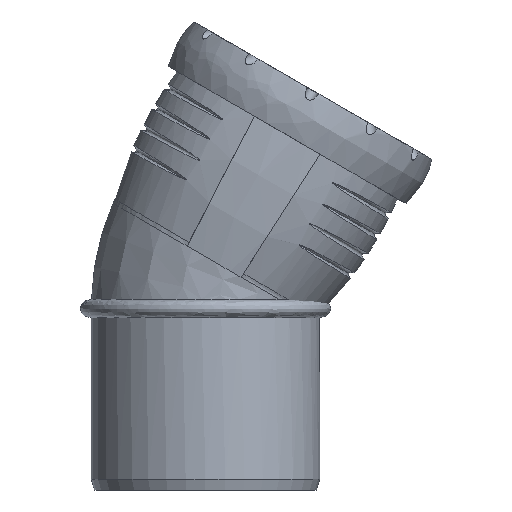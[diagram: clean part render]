
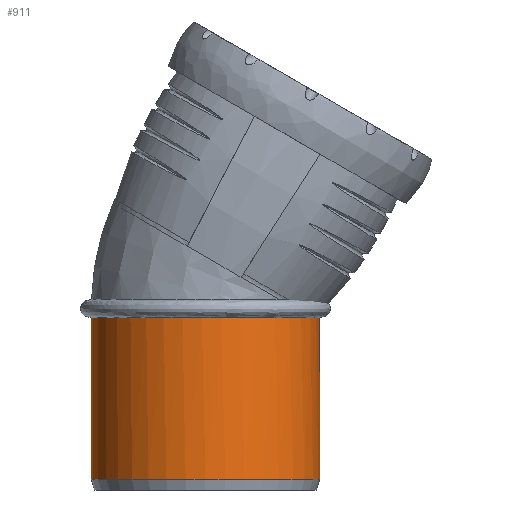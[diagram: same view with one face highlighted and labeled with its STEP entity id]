
A CAD part, front view. The second image highlights one B-rep face of the part: STEP entity #911.
In plain terms, the highlighted cylindrical face has radius 37.6 mm (diameter 75.2 mm), a full revolution.
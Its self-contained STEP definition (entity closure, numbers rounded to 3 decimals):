
#35=FACE_BOUND('',#148,.T.);
#59=CYLINDRICAL_SURFACE('',#979,37.6);
#92=FACE_OUTER_BOUND('',#147,.T.);
#147=EDGE_LOOP('',(#600,#601,#602,#603));
#148=EDGE_LOOP('',(#604));
#221=CIRCLE('',#974,37.6);
#224=CIRCLE('',#980,37.6);
#225=CIRCLE('',#981,37.6);
#226=CIRCLE('',#982,37.6);
#227=CIRCLE('',#983,37.6);
#358=VERTEX_POINT('',#1435);
#359=VERTEX_POINT('',#1466);
#361=VERTEX_POINT('',#1506);
#362=VERTEX_POINT('',#1508);
#363=VERTEX_POINT('',#1511);
#459=EDGE_CURVE('',#358,#359,#221,.T.);
#462=EDGE_CURVE('',#361,#358,#224,.T.);
#463=EDGE_CURVE('',#359,#362,#225,.T.);
#464=EDGE_CURVE('',#362,#361,#226,.T.);
#465=EDGE_CURVE('',#363,#363,#227,.T.);
#600=ORIENTED_EDGE('',*,*,#462,.T.);
#601=ORIENTED_EDGE('',*,*,#459,.T.);
#602=ORIENTED_EDGE('',*,*,#463,.T.);
#603=ORIENTED_EDGE('',*,*,#464,.T.);
#604=ORIENTED_EDGE('',*,*,#465,.F.);
#911=ADVANCED_FACE('',(#92,#35),#59,.T.);
#974=AXIS2_PLACEMENT_3D('',#1499,#1074,#1075);
#979=AXIS2_PLACEMENT_3D('',#1505,#1084,#1085);
#980=AXIS2_PLACEMENT_3D('',#1507,#1086,#1087);
#981=AXIS2_PLACEMENT_3D('',#1509,#1088,#1089);
#982=AXIS2_PLACEMENT_3D('',#1510,#1090,#1091);
#983=AXIS2_PLACEMENT_3D('',#1512,#1092,#1093);
#1074=DIRECTION('center_axis',(0.,0.,-1.));
#1075=DIRECTION('ref_axis',(1.,0.,0.));
#1084=DIRECTION('center_axis',(0.,0.,-1.));
#1085=DIRECTION('ref_axis',(0.,1.,0.));
#1086=DIRECTION('center_axis',(0.,0.,-1.));
#1087=DIRECTION('ref_axis',(1.,0.,0.));
#1088=DIRECTION('center_axis',(0.,0.,-1.));
#1089=DIRECTION('ref_axis',(1.,0.,0.));
#1090=DIRECTION('center_axis',(0.,0.,-1.));
#1091=DIRECTION('ref_axis',(1.,0.,0.));
#1092=DIRECTION('center_axis',(0.,0.,-1.));
#1093=DIRECTION('ref_axis',(1.,0.,0.));
#1435=CARTESIAN_POINT('',(34.545,14.846,56.7));
#1466=CARTESIAN_POINT('',(34.545,-14.846,56.7));
#1499=CARTESIAN_POINT('Origin',(0.,0.,56.7));
#1505=CARTESIAN_POINT('Origin',(0.,0.,30.1));
#1506=CARTESIAN_POINT('',(0.,37.6,56.7));
#1507=CARTESIAN_POINT('Origin',(0.,0.,56.7));
#1508=CARTESIAN_POINT('',(-37.6,0.,56.7));
#1509=CARTESIAN_POINT('Origin',(0.,0.,56.7));
#1510=CARTESIAN_POINT('Origin',(0.,0.,56.7));
#1511=CARTESIAN_POINT('',(0.,37.6,3.5));
#1512=CARTESIAN_POINT('Origin',(0.,0.,3.5));
